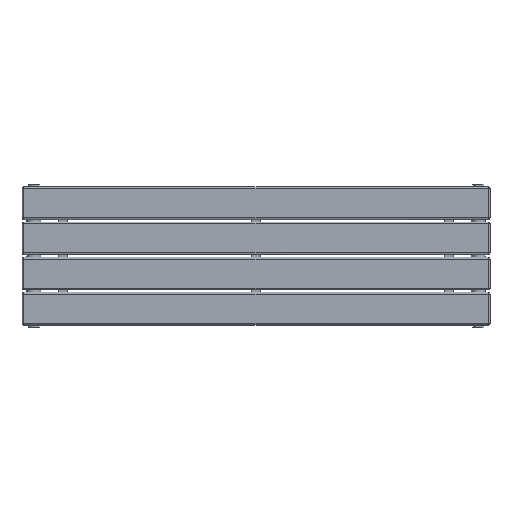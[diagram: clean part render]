
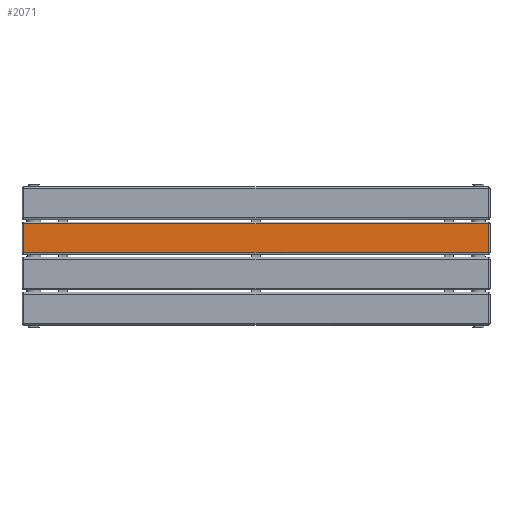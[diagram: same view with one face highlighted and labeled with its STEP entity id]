
A CAD part, top view. The second image highlights one B-rep face of the part: STEP entity #2071.
In plain terms, the highlighted planar face has unit normal (0, 0, 1) as drawn and (0, -1, 0) by its records, which use the part's own axes.
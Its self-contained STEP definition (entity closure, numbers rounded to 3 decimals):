
#146=LINE('',#3507,#319);
#149=LINE('',#3520,#322);
#152=LINE('',#3528,#325);
#153=LINE('',#3534,#326);
#319=VECTOR('',#2580,10.);
#322=VECTOR('',#2597,10.);
#325=VECTOR('',#2606,10.);
#326=VECTOR('',#2617,10.);
#505=PLANE('',#2296);
#722=FACE_OUTER_BOUND('',#873,.T.);
#873=EDGE_LOOP('',(#1554,#1555,#1556,#1557));
#1025=VERTEX_POINT('',#3504);
#1026=VERTEX_POINT('',#3506);
#1029=VERTEX_POINT('',#3518);
#1031=VERTEX_POINT('',#3526);
#1212=EDGE_CURVE('',#1025,#1026,#146,.T.);
#1219=EDGE_CURVE('',#1025,#1029,#149,.T.);
#1223=EDGE_CURVE('',#1031,#1029,#152,.T.);
#1226=EDGE_CURVE('',#1026,#1031,#153,.T.);
#1554=ORIENTED_EDGE('',*,*,#1212,.F.);
#1555=ORIENTED_EDGE('',*,*,#1219,.T.);
#1556=ORIENTED_EDGE('',*,*,#1223,.F.);
#1557=ORIENTED_EDGE('',*,*,#1226,.F.);
#2071=ADVANCED_FACE('',(#722),#505,.T.);
#2296=AXIS2_PLACEMENT_3D('',#3535,#2618,#2619);
#2580=DIRECTION('',(-1.,0.,0.));
#2597=DIRECTION('',(0.,0.,1.));
#2606=DIRECTION('',(1.,0.,0.));
#2617=DIRECTION('',(0.,0.,1.));
#2618=DIRECTION('center_axis',(0.,-1.,0.));
#2619=DIRECTION('ref_axis',(1.,0.,0.));
#3504=CARTESIAN_POINT('',(31.,-8.,-496.));
#3506=CARTESIAN_POINT('',(-31.,-8.,-496.));
#3507=CARTESIAN_POINT('',(-15.5,-8.,-496.));
#3518=CARTESIAN_POINT('',(31.,-8.,496.));
#3520=CARTESIAN_POINT('',(31.,-8.,0.));
#3526=CARTESIAN_POINT('',(-31.,-8.,496.));
#3528=CARTESIAN_POINT('',(-15.5,-8.,496.));
#3534=CARTESIAN_POINT('',(-31.,-8.,0.));
#3535=CARTESIAN_POINT('Origin',(-31.,-8.,0.));
